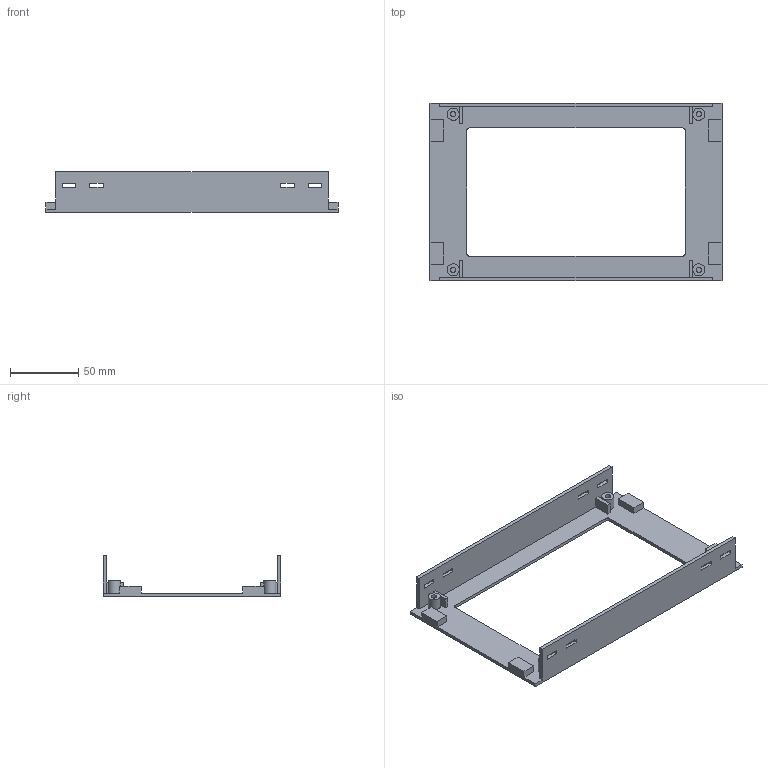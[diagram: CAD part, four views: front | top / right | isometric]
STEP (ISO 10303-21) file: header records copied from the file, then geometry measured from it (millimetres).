
FILE_DESCRIPTION(('Open CASCADE Model'),'2;1');
FILE_NAME('Open CASCADE Shape Model','2026-10-27T02:12:01',('Author'),( 'Open CASCADE'),'Open CASCADE STEP processor 7.9','Open CASCADE 7.9' ,'Unknown');
FILE_SCHEMA(('AUTOMOTIVE_DESIGN { 1 0 10303 214 1 1 1 1 }'));
Length unit declared in the file: millimetre
Products named in the file (1): Open CASCADE STEP translator 7.9 1
Bounding box: 214 x 130 x 30 mm (x, y, z)
Volume: 63805.7 mm3; surface area: 54312 mm2
Topology: 1 solids, 1 shells, 110 faces, 288 edges, 192 vertices
Faces by surface type: plane 94, cylinder 16
Full cylindrical faces by diameter (mm): 4 x8, 9 x4
Entity records: 6974 total; most frequent: CARTESIAN_POINT 1399, DIRECTION 926, LINE 616, VECTOR 616, ORIENTED_EDGE 576, PCURVE 576, DEFINITIONAL_REPRESENTATION 576, EDGE_CURVE 288
